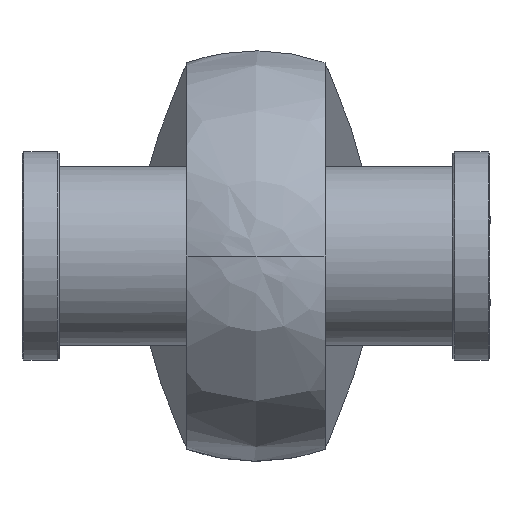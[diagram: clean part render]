
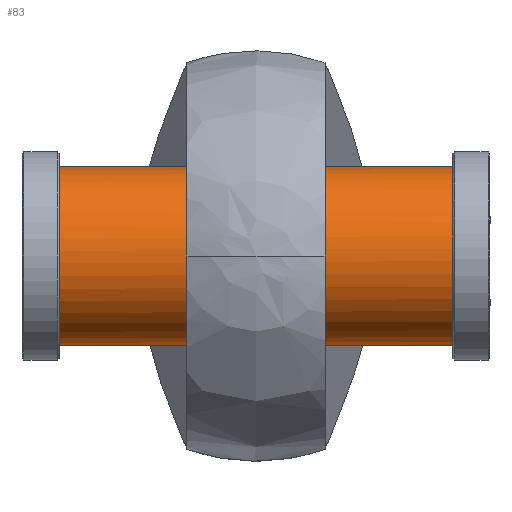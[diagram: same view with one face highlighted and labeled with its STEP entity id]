
A CAD part, left-side view. The second image highlights one B-rep face of the part: STEP entity #83.
In plain terms, the highlighted cylindrical face has radius 24 mm (diameter 48 mm), a full revolution.
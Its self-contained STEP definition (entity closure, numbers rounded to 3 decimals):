
#83=ADVANCED_FACE('',(#157),#1214,.T.);
#157=FACE_OUTER_BOUND('',#238,.T.);
#238=EDGE_LOOP('',(#506,#507,#508,#509));
#506=ORIENTED_EDGE('',*,*,#774,.T.);
#507=ORIENTED_EDGE('',*,*,#776,.T.);
#508=ORIENTED_EDGE('',*,*,#775,.T.);
#509=ORIENTED_EDGE('',*,*,#776,.F.);
#774=EDGE_CURVE('',#1128,#1128,#983,.T.);
#775=EDGE_CURVE('',#1129,#1129,#984,.T.);
#776=EDGE_CURVE('',#1128,#1129,#897,.T.);
#897=B_SPLINE_CURVE_WITH_KNOTS('',1,(#2248,#2249),.UNSPECIFIED.,.F.,.F.,
(2,2),(10.665,116.115),.UNSPECIFIED.);
#983=(
BOUNDED_CURVE()
B_SPLINE_CURVE(2,(#2230,#2231,#2232,#2233,#2234,#2235,#2236,#2237,#2238),
 .UNSPECIFIED.,.T.,.F.)
B_SPLINE_CURVE_WITH_KNOTS((3,2,2,2,3),(0.,37.699,75.398,
113.097,150.796),.UNSPECIFIED.)
CURVE()
GEOMETRIC_REPRESENTATION_ITEM()
RATIONAL_B_SPLINE_CURVE((1.,0.707,1.,0.707,1.,0.707,
1.,0.707,1.))
REPRESENTATION_ITEM('')
);
#984=(
BOUNDED_CURVE()
B_SPLINE_CURVE(2,(#2239,#2240,#2241,#2242,#2243,#2244,#2245,#2246,#2247),
 .UNSPECIFIED.,.T.,.F.)
B_SPLINE_CURVE_WITH_KNOTS((3,2,2,2,3),(0.,37.699,75.398,
113.097,150.796),.UNSPECIFIED.)
CURVE()
GEOMETRIC_REPRESENTATION_ITEM()
RATIONAL_B_SPLINE_CURVE((1.,0.707,1.,0.707,1.,0.707,
1.,0.707,1.))
REPRESENTATION_ITEM('')
);
#1128=VERTEX_POINT('',#2182);
#1129=VERTEX_POINT('',#2183);
#1214=CYLINDRICAL_SURFACE('',#1366,24.);
#1366=AXIS2_PLACEMENT_3D('',#2172,#1412,$);
#1412=DIRECTION('',(0.,-1.,0.));
#2172=CARTESIAN_POINT('',(0.,0.,0.));
#2182=CARTESIAN_POINT('',(24.,52.725,0.));
#2183=CARTESIAN_POINT('',(24.,-52.725,0.));
#2230=CARTESIAN_POINT('',(24.,52.725,0.));
#2231=CARTESIAN_POINT('',(24.,52.725,24.));
#2232=CARTESIAN_POINT('',(0.,52.725,24.));
#2233=CARTESIAN_POINT('',(-24.,52.725,24.));
#2234=CARTESIAN_POINT('',(-24.,52.725,0.));
#2235=CARTESIAN_POINT('',(-24.,52.725,-24.));
#2236=CARTESIAN_POINT('',(0.,52.725,-24.));
#2237=CARTESIAN_POINT('',(24.,52.725,-24.));
#2238=CARTESIAN_POINT('',(24.,52.725,0.));
#2239=CARTESIAN_POINT('',(24.,-52.725,0.));
#2240=CARTESIAN_POINT('',(24.,-52.725,-24.));
#2241=CARTESIAN_POINT('',(0.,-52.725,-24.));
#2242=CARTESIAN_POINT('',(-24.,-52.725,-24.));
#2243=CARTESIAN_POINT('',(-24.,-52.725,0.));
#2244=CARTESIAN_POINT('',(-24.,-52.725,24.));
#2245=CARTESIAN_POINT('',(0.,-52.725,24.));
#2246=CARTESIAN_POINT('',(24.,-52.725,24.));
#2247=CARTESIAN_POINT('',(24.,-52.725,0.));
#2248=CARTESIAN_POINT('',(24.,52.725,0.));
#2249=CARTESIAN_POINT('',(24.,-52.725,0.));
